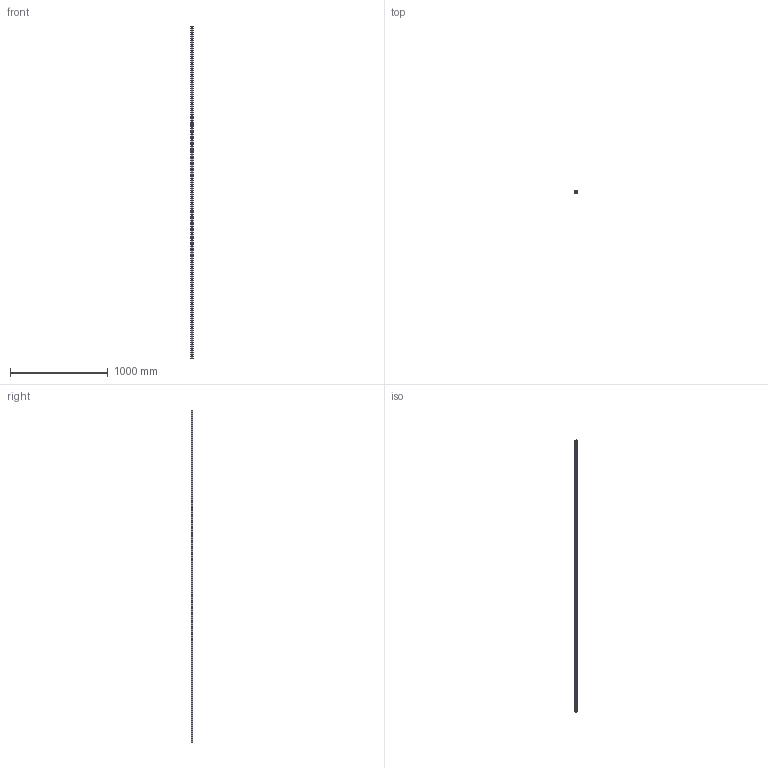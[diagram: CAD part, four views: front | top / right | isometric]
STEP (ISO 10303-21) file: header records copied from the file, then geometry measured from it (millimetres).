
FILE_DESCRIPTION (( 'STEP AP203' ), '1' );
FILE_NAME ('L1016.BL25-3400.step', '2019-06-12T12:15:05', ( '' ), ( '' ), 'SwSTEP 2.0', 'SolidWorks 2017', '' );
FILE_SCHEMA (( 'CONFIG_CONTROL_DESIGN' ));
Length unit declared in the file: millimetre
Products named in the file (1): L1016.BL25-3400
Bounding box: 23 x 19.2 x 3400 mm (x, y, z)
Volume: 1253005.3 mm3; surface area: 321558.3 mm2
Topology: 1 solids, 1 shells, 311 faces, 756 edges, 504 vertices
Faces by surface type: cylinder 232, plane 79
Entity records: 9679 total; most frequent: DIRECTION 1844, CARTESIAN_POINT 1572, ORIENTED_EDGE 1512, AXIS2_PLACEMENT_3D 776, EDGE_CURVE 756, VERTEX_POINT 504, EDGE_LOOP 482, CIRCLE 464
